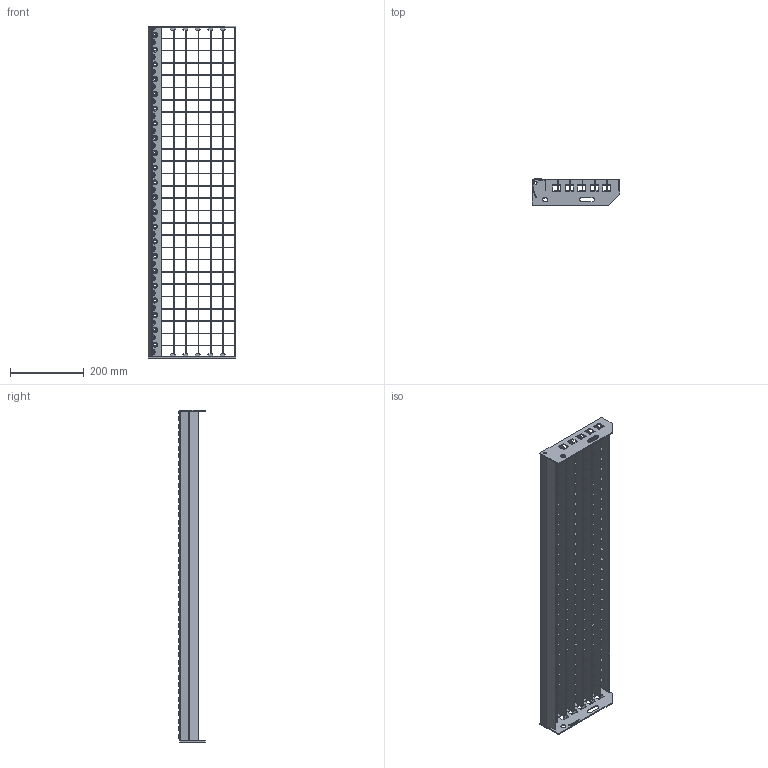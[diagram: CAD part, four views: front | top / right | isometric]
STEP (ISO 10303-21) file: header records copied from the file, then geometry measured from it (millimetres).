
FILE_DESCRIPTION(/* description */ ('','CAx-IF Rec.Pracs.---Representation and Presentation of Product Manufacturing Information (PMI)---3.8---2014-02-18'),/* implementation_level */ '2;1');
FILE_NAME(/* name */ 'C:\Users\phaverkotte\Desktop\Lager STEP\P-Stufen\P 230-33-2\P 230-33-2 900mm x 240mm.stp',/* time_stamp */ '2018-03-24T09:37:14+01:00',/* author */ ('phaverkotte'),/* organization */ (''),/* preprocessor_version */ 'ST-DEVELOPER v16.13',/* originating_system */ 'Autodesk Inventor 2018',/* authorisation */ '');
FILE_SCHEMA (('AP242_MANAGED_MODEL_BASED_3D_ENGINEERING_MIM_LF { 1 0 10303 442 1 1 4 }'));
Length unit declared in the file: millimetre
Products named in the file (8): Schodišťový stupeň přím
ý lisovaný; Seitenplatte ausgeklinkt links; Seitenplatte 240 ausgeklinkt extern rechts; Schod nášlap; P Rošt schodu; Querstab; P Nosný pás; Hinteres Flach
Assembly tree (37 placements, depth 3):
  Schodišťový stupeň přím
ý lisovaný
    Seitenplatte ausgeklinkt links
    Seitenplatte 240 ausgeklinkt extern rechts
    Schod nášlap
    P Rošt schodu
      Querstab  x26
      P Nosný pás  x6
      Hinteres Flach
Bounding box: 236.98 x 72.75 x 900 mm (x, y, z)
Volume: 723654.1 mm3; surface area: 733840.5 mm2
Topology: 36 solids, 36 shells, 1420 faces, 3890 edges, 2559 vertices
Faces by surface type: plane 1108, cone 135, cylinder 112, torus 45, bspline 20
Full cylindrical faces by diameter (mm): 8 x2, 13 x2
Entity records: 25247 total; most frequent: CARTESIAN_POINT 7196, DIRECTION 3596, ORIENTED_EDGE 3402, EDGE_CURVE 1701, LINE 1204, VECTOR 1204, AXIS2_PLACEMENT_3D 1196, VERTEX_POINT 1190
